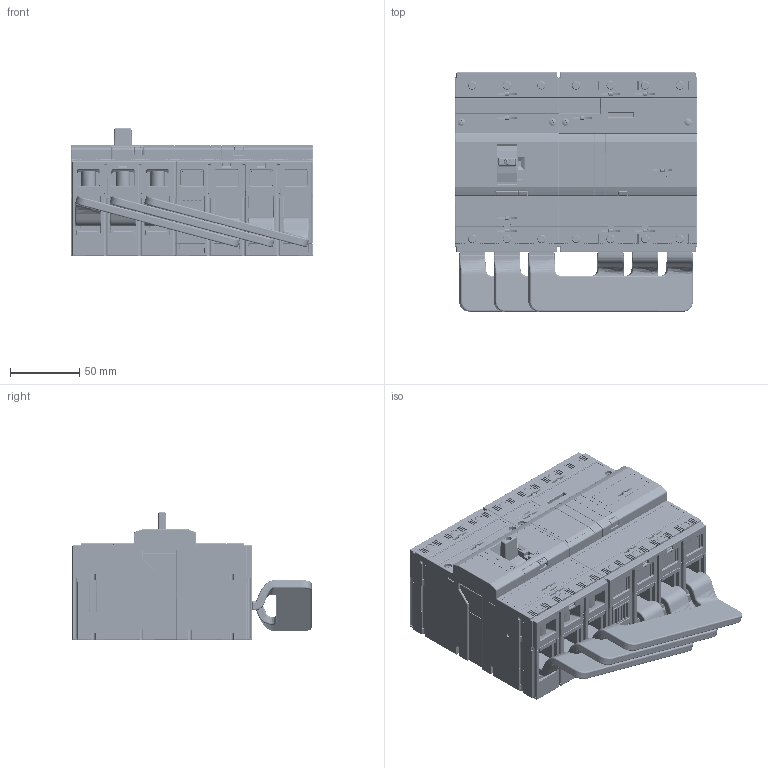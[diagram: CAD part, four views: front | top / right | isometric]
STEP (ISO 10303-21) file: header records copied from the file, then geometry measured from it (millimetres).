
FILE_DESCRIPTION (( 'STEP AP214' ), '1' );
FILE_NAME ('BC160NT305__RCD-BC0_P_fin_opr1.step', '2013-06-14T11:29:22', ( 'Siemens' ), ( 'Siemens' ), 'SwSTEP 2.0', 'SolidWorks 2011', '' );
FILE_SCHEMA (( 'AUTOMOTIVE_DESIGN' ));
Length unit declared in the file: millimetre
Products named in the file (1): BC160NT305__RCD-BC0_P_fin_opr1
Bounding box: 175 x 173 x 92.5 mm (x, y, z)
Volume: 1550528.4 mm3; surface area: 308204.1 mm2
Topology: 22 solids, 26 shells, 9995 faces, 26909 edges, 17001 vertices
Faces by surface type: plane 5292, cylinder 3205, torus 736, cone 372, bspline 269, sphere 121
Entity records: 452287 total; most frequent: CARTESIAN_POINT 99296, ORIENTED_EDGE 53604, DIRECTION 46627, EDGE_CURVE 26802, LINE 17453, VECTOR 17453, VERTEX_POINT 16995, AXIS2_PLACEMENT_3D 14587
